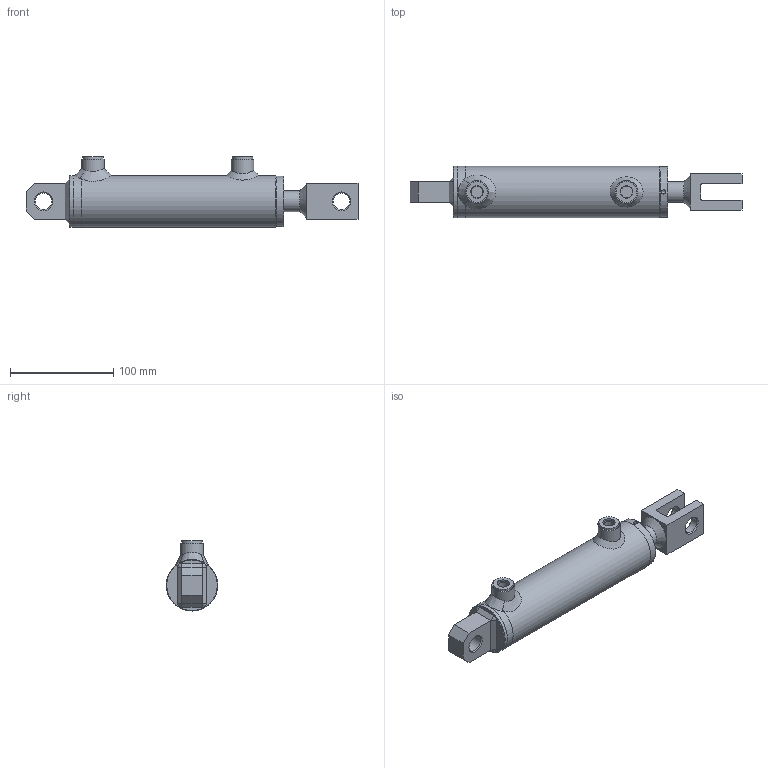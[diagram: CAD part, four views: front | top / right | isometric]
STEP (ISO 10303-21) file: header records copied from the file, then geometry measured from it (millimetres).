
FILE_DESCRIPTION( ( 'Unknown' ), '1' );
FILE_NAME( 'E:/LIBRERIA_3d/CILINDRI/HM5/HM51200100.stp', 'Unknown', ( 'Unknown' ), ( 'Unknown' ), 'PSStep 17.0.49', 'Unknown', ' ' );
FILE_SCHEMA( ( 'AUTOMOTIVE_DESIGN { 1 0 10303 214 1 1 1 1 }' ) );
Length unit declared in the file: millimetre
Products named in the file (29): CT00040015; CG05004020; STL1500100-oa4; Saldatura d'angolo 1-oa2; FTM1500100-oa3; CBSC220400; HM01200100; Saldatura con preparazione 1-oa0; Saldatura d'angolo 1-oa1; CF00040050; SBL2010100; CDA0001415; CBS0400000; APG0400000; Assem1; CSCS004010; COF1600000; CFS0000016; Saldatura con preparazione 1-oa5; Saldatura d'angolo 1-oa6; Saldatura d'angolo 2-oa7
Assembly tree (22 placements, depth 4):
  Saldatura d'angolo 1-oa2
  Saldatura d'angolo 1-oa2
  Saldatura d'angolo 1-oa1
  Saldatura d'angolo 1-oa1
  Assem1
    CSCS004010  x2
    COF1600000
    CFS0000016
    Saldatura con preparazione 1-oa5
    Saldatura con preparazione 1-oa5
    HM01200100
      Saldatura con preparazione 1-oa0
      Saldatura con preparazione 1-oa0
      CF00040050
      SBL2010100
      CDA0001415
      CBS0400000
      APG0400000  x2
      CT00040015
        CT00040015
      CG05004020
        CG05004020
      STL1500100-oa4
        FTM1500100-oa3
        CBSC220400
Bounding box: 322 x 50 x 68 mm (x, y, z)
Volume: 364785.6 mm3; surface area: 143306.9 mm2
Topology: 26 solids, 26 shells, 283 faces, 607 edges, 373 vertices
Faces by surface type: plane 96, cylinder 69, cone 52, bspline 34, torus 32
Full cylindrical faces by diameter (mm): 4 x4, 4.25 x3, 7 x2, 11.445 x2, 12 x2, 13.1 x2, 14 x2, 15 x3, 16.2 x3, 19.5 x1, 20 x10, 22 x4, 23 x1, 28 x1, 28.6 x1, 30 x1, 35 x1, 35.4 x2, 38.5 x2, 39.9 x1, 40 x1, 40.3 x1, 40.5 x1, 40.6 x1, 41 x1, 42 x3, 42.5 x1, 44 x1, 49 x1, 50 x4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
Entity records: 11462 total; most frequent: CARTESIAN_POINT 4413, DIRECTION 1024, ORIENTED_EDGE 740, AXIS2_PLACEMENT_3D 464, EDGE_LOOP 462, EDGE_CURVE 370, FACE_OUTER_BOUND 366, VERTEX_POINT 305
